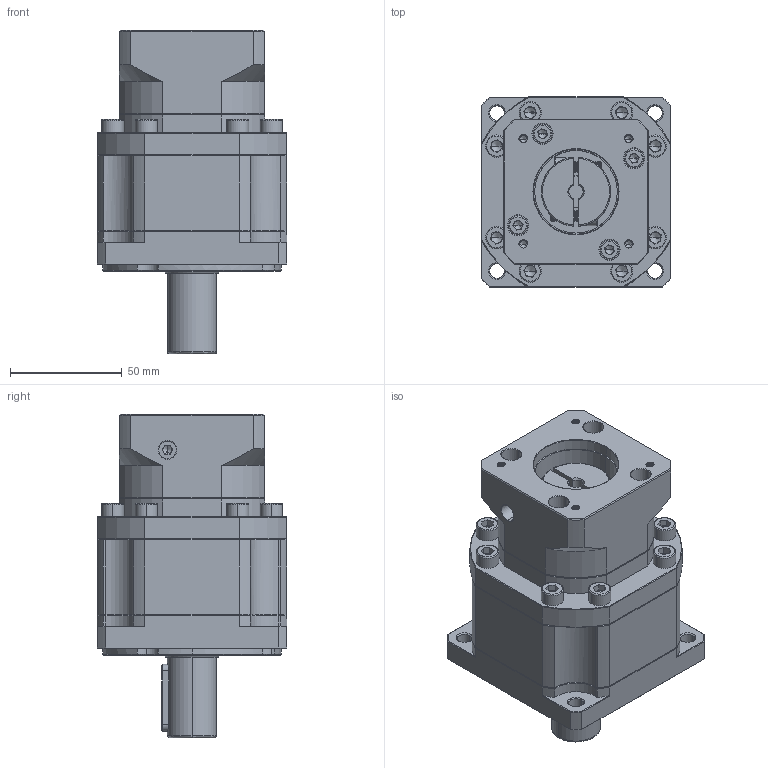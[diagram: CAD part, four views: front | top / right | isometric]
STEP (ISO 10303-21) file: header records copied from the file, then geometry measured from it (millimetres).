
FILE_DESCRIPTION (( 'STEP AP214' ), '1' );
FILE_NAME ('ZB90-D22-L2-6.35-38.1-47.14X47.14-M4.STEP', '2022-05-02T15:08:42', ( '' ), ( 'Microsoft' ), 'SwSTEP 2.0', 'SolidWorks 2016', '' );
FILE_SCHEMA (( 'AUTOMOTIVE_DESIGN' ));
Length unit declared in the file: millimetre
Products named in the file (1): ZB90-D22-L2-6.35-38.1-47.14X47.14-M4
Bounding box: 85 x 85 x 145 mm (x, y, z)
Volume: 550510.8 mm3; surface area: 76271.6 mm2
Topology: 6 solids, 6 shells, 2072 faces, 5430 edges, 3449 vertices
Faces by surface type: plane 1005, cylinder 394, bspline 328, cone 323, torus 22
Entity records: 107261 total; most frequent: CARTESIAN_POINT 36105, ORIENTED_EDGE 10768, DIRECTION 8911, EDGE_CURVE 5384, VERTEX_POINT 3449, LINE 3303, VECTOR 3303, AXIS2_PLACEMENT_3D 2804
